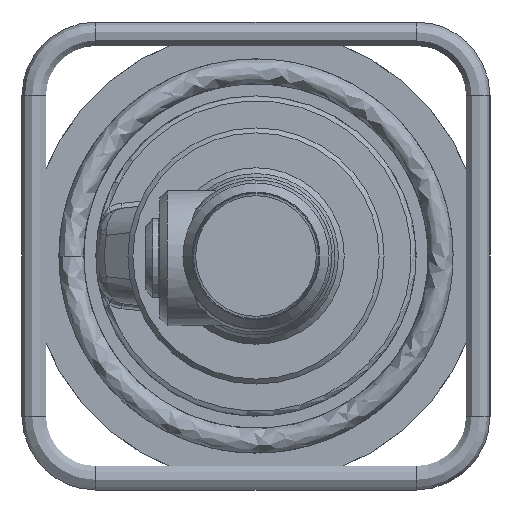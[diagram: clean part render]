
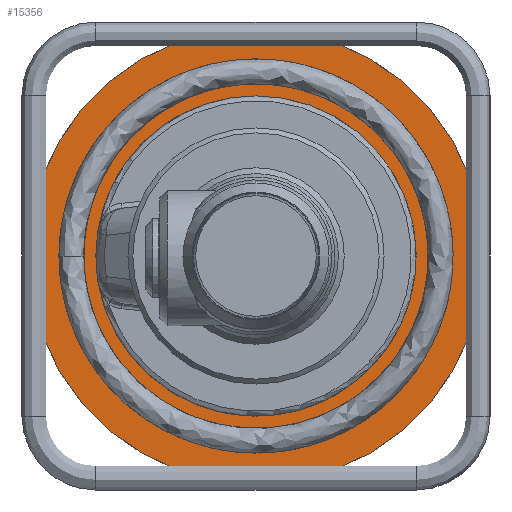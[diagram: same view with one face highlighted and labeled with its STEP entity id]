
A CAD part, left-side view. The second image highlights one B-rep face of the part: STEP entity #15356.
In plain terms, the highlighted planar face has unit normal (-1, 0, 0).
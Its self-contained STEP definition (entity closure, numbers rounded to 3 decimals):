
#1471=PLANE('',#16284);
#3544=FACE_BOUND('',#5344,.T.);
#4347=FACE_OUTER_BOUND('',#5343,.T.);
#5343=EDGE_LOOP('',(#13560));
#5344=EDGE_LOOP('',(#13561));
#5923=CIRCLE('',#16261,92.5);
#5925=CIRCLE('',#16285,65.);
#7395=VERTEX_POINT('',#31772);
#7397=VERTEX_POINT('',#31798);
#9496=EDGE_CURVE('',#7395,#7395,#5923,.T.);
#9498=EDGE_CURVE('',#7397,#7397,#5925,.T.);
#13560=ORIENTED_EDGE('',*,*,#9496,.F.);
#13561=ORIENTED_EDGE('',*,*,#9498,.T.);
#15356=ADVANCED_FACE('',(#4347,#3544),#1471,.T.);
#16261=AXIS2_PLACEMENT_3D('',#31773,#18920,#18921);
#16284=AXIS2_PLACEMENT_3D('',#31797,#18966,#18967);
#16285=AXIS2_PLACEMENT_3D('',#31799,#18968,#18969);
#18920=DIRECTION('center_axis',(1.,0.,0.));
#18921=DIRECTION('ref_axis',(0.,0.644,0.765));
#18966=DIRECTION('center_axis',(-1.,0.,0.));
#18967=DIRECTION('ref_axis',(0.,0.644,0.765));
#18968=DIRECTION('center_axis',(1.,0.,0.));
#18969=DIRECTION('ref_axis',(0.,0.,
1.));
#31772=CARTESIAN_POINT('',(0.,70.782,-59.55));
#31773=CARTESIAN_POINT('Origin',(0.,0.,0.));
#31797=CARTESIAN_POINT('Origin',(0.,70.782,
-59.55));
#31798=CARTESIAN_POINT('',(0.,0.,65.));
#31799=CARTESIAN_POINT('Origin',(0.,0.,
0.));
